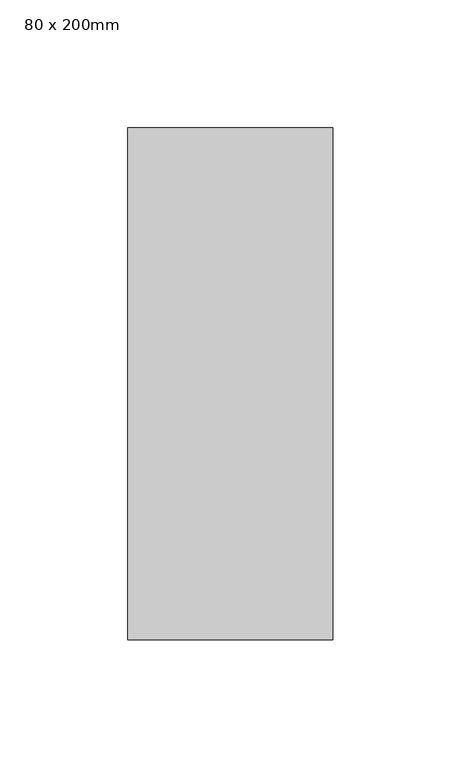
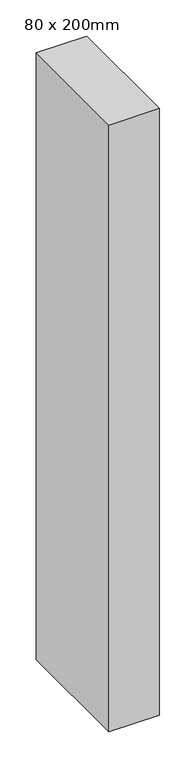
"""IFC4 building model written with IfcOpenShell, lengths in millimetres: member geometry, 矩形竖梃 : 80 x 200mm."""

from ifc_helpers import new_model, si_unit, frame, origin, place, context, project, spatial, polyline, outline, extrude, source, transform, mapped, element, save


def member_80_x_200mm_2f8fc85b(model_context):
    return source(origin(), model_context, "Body", "SweptSolid", [
        extrude(outline(polyline([(0.0, 100.0), (0.0, -100.0), (-80.0, -100.0), (-80.0, 100.0), (0.0, 100.0)])), frame((0.0, 0.0, -1020.0000248), z_axis=(0.0, 0.0, 1.0), x_axis=(1.0, 0.0, 0.0)), (0.0, 0.0, 1.0), 1020.0000248),
    ])


if __name__ == "__main__":
    model = new_model("IFC4")
    model_context = context("Model", 3, world=origin())
    ifc_project = project(units=[si_unit("LENGTHUNIT", "METRE", prefix="MILLI")], contexts=[model_context])
    site = spatial("IfcSite", under=ifc_project)
    building = spatial("IfcBuilding", under=site)
    placement = place(None, origin())
    member_80_x_200mm_shape = member_80_x_200mm_2f8fc85b(model_context)
    element("IfcMember", 1, ObjectType="矩形竖梃 : 80 x 200mm", at=placement, inside=building, context=model_context, shape_type="MappedRepresentation", body=[
        mapped(member_80_x_200mm_shape, transform((0.0, 0.0, 0.0), x_axis=(1.0, 0.0, 0.0), y_axis=(0.0, 1.0, 0.0), z_axis=(0.0, 0.0, 1.0))),
    ])
    save(model, "model.ifc")
